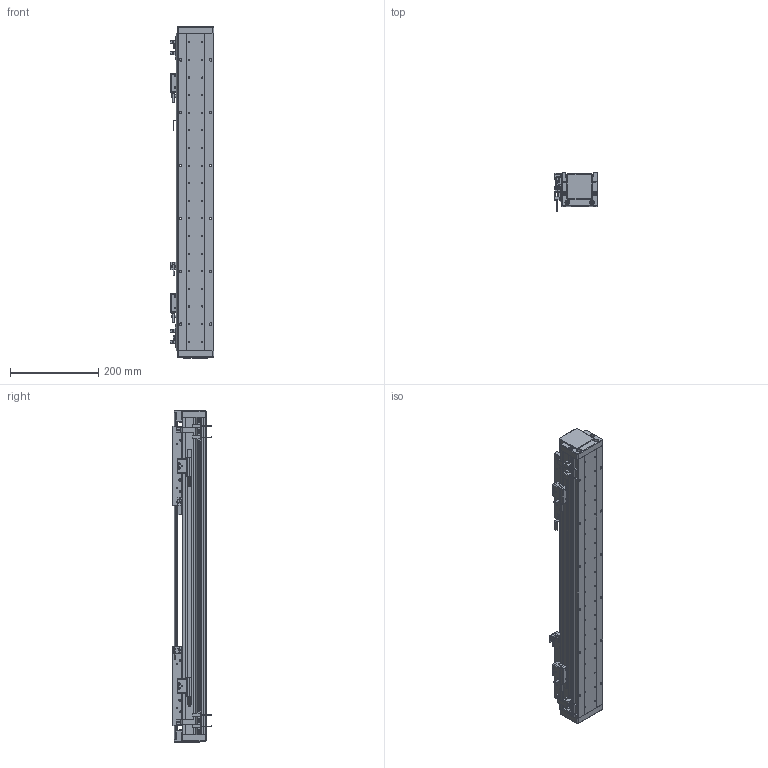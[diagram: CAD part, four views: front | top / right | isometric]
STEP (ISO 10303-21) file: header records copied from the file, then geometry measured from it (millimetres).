
FILE_DESCRIPTION (( 'STEP AP203' ), '1' );
FILE_NAME ('DA-A82-2-B2-T300-C010-0.2 眻盄萇儂.STEP', '2025-08-13T02:27:52', ( '' ), ( '' ), 'SwSTEP 2.0', 'SolidWorks 2019', '' );
FILE_SCHEMA (( 'CONFIG_CONTROL_DESIGN' ));
Length unit declared in the file: millimetre
Products named in the file (27): IU-AU82-L 菁釱絳寢; 葩璃 DMT-010 1米m 0.2M^DA-A82-B2-T-C010-0.2-N 眻盄萇儂; 复件 DKW-GJ-XJ-00 防撞橡胶^DA-A82-B2-T-C010-0.2-N 直线电机; 复件 DA60-DMT-DTJ-00 读数头支架^DA-A82-B2-T-C010-0.2-N 直线电机; 复件 复件 DA82-XJ-00 缓冲橡胶^DA-A82-B2-T-C010-0.2-N 直线电机; IU-AU82-L-00 菁釱(L720); AU82-M 幗紩賑怢-1; 复件 DA95-B2-GT-00 滑块钢轨^AU82-M-00 一体化滑动台板; 复件 DA82-GYP-ZJ-00 中间光电感应片^DA-A82-B2-T-C010-0.2-N 直线电机; DA-A60-GYP-DMT-00 光电感应片^DA-A82-B2-T-C010-0.2-N 直线电机(默认); 复件 BKM02-W040-C1-TP-DA-3.0 直线电机动子^DA-A82-B2-T-C010-0.2-N 直线电机; 葩璃 DA82-B2-DP-00 結え^AU82-M 幗紩賑怢; 复件 DA95-GT-T-00 底座钢轨^IU-AU82-L 底座导轨; 复件 六角薄螺母 M3^DA-A82-B2-T-C010-0.2-N 直线电机; AU82-HT-M-00 賑雄怢啣; 葩璃 PM-T45^DA-A82-B2-T-C010-0.2-N 眻盄萇儂; 复件 DA82-T-002-00 盖板^DA-A82-B2-T-C010-0.2-N 直线电机; 葩璃 PM-L25^DA-A82-B2-T-C010-0.2-N 眻盄萇儂; 复件 DA82-GDZ-ZJ-00 中间光电固定座^DA-A82-B2-T-C010-0.2-N 直线电机; AU82-M 幗紩賑怢; 复件 DA82-DG-H-N-00 端盖^DA-A82-B2-T-C010-0.2-N 直线电机(默认_按加工_); 复件 XD-U-02  磁栅尺^DA-A82-B2-T-C010-0.2-N 直线电机; AU82-M-00 珨极趙賑雄怢啣-1; 葩璃 BKM01-W040-TRL^DA-A82-B2-T-C010-0.2-N 眻盄萇儂; AU82-M-00 珨极趙賑雄怢啣; 复件 纯铜油杯 6x6mm^AU82-M 滚珠滑台; DA-A82-2-B2-T300-C010-0.2 眻盄萇儂
Assembly tree (57 placements, depth 4):
  DA-A82-2-B2-T300-C010-0.2 眻盄萇儂
    IU-AU82-L 菁釱絳寢
      IU-AU82-L-00 菁釱(L720)
      复件 DA95-GT-T-00 底座钢轨^IU-AU82-L 底座导轨  x2
    AU82-M 幗紩賑怢
      AU82-M-00 珨极趙賑雄怢啣
        AU82-HT-M-00 賑雄怢啣
        复件 DA95-B2-GT-00 滑块钢轨^AU82-M-00 一体化滑动台板  x4
      葩璃 DA82-B2-DP-00 結え^AU82-M 幗紩賑怢  x2
      复件 纯铜油杯 6x6mm^AU82-M 滚珠滑台  x2
    AU82-M 幗紩賑怢-1
      AU82-M-00 珨极趙賑雄怢啣-1
        AU82-HT-M-00 賑雄怢啣
        复件 DA95-B2-GT-00 滑块钢轨^AU82-M-00 一体化滑动台板  x4
      葩璃 DA82-B2-DP-00 結え^AU82-M 幗紩賑怢  x2
      复件 纯铜油杯 6x6mm^AU82-M 滚珠滑台  x2
    复件 BKM02-W040-C1-TP-DA-3.0 直线电机动子^DA-A82-B2-T-C010-0.2-N 直线电机  x2
    复件 DA60-DMT-DTJ-00 读数头支架^DA-A82-B2-T-C010-0.2-N 直线电机  x2
    葩璃 DMT-010 1米m 0.2M^DA-A82-B2-T-C010-0.2-N 眻盄萇儂  x2
    DA-A60-GYP-DMT-00 光电感应片^DA-A82-B2-T-C010-0.2-N 直线电机(默认)  x2
    复件 DA82-GDZ-ZJ-00 中间光电固定座^DA-A82-B2-T-C010-0.2-N 直线电机
    葩璃 PM-L25^DA-A82-B2-T-C010-0.2-N 眻盄萇儂
    复件 DA82-GYP-ZJ-00 中间光电感应片^DA-A82-B2-T-C010-0.2-N 直线电机
    复件 DKW-GJ-XJ-00 防撞橡胶^DA-A82-B2-T-C010-0.2-N 直线电机
    复件 复件 DA82-XJ-00 缓冲橡胶^DA-A82-B2-T-C010-0.2-N 直线电机  x2
    复件 DA82-DG-H-N-00 端盖^DA-A82-B2-T-C010-0.2-N 直线电机(默认_按加工_)  x2
    复件 DA82-T-002-00 盖板^DA-A82-B2-T-C010-0.2-N 直线电机
    葩璃 BKM01-W040-TRL^DA-A82-B2-T-C010-0.2-N 眻盄萇儂
    葩璃 PM-T45^DA-A82-B2-T-C010-0.2-N 眻盄萇儂  x4
    复件 XD-U-02  磁栅尺^DA-A82-B2-T-C010-0.2-N 直线电机
    复件 六角薄螺母 M3^DA-A82-B2-T-C010-0.2-N 直线电机  x8
Bounding box: 98.95 x 87.2 x 754 mm (x, y, z)
Volume: 3023084.8 mm3; surface area: 841119.7 mm2
Topology: 66 solids, 114 shells, 2989 faces, 7579 edges, 4648 vertices
Faces by surface type: cylinder 1261, plane 1218, cone 436, torus 46, bspline 20, sphere 8
Entity records: 55691 total; most frequent: CARTESIAN_POINT 11620, DIRECTION 8708, ORIENTED_EDGE 8110, EDGE_CURVE 4055, AXIS2_PLACEMENT_3D 3243, VERTEX_POINT 2619, LINE 2222, VECTOR 2222
